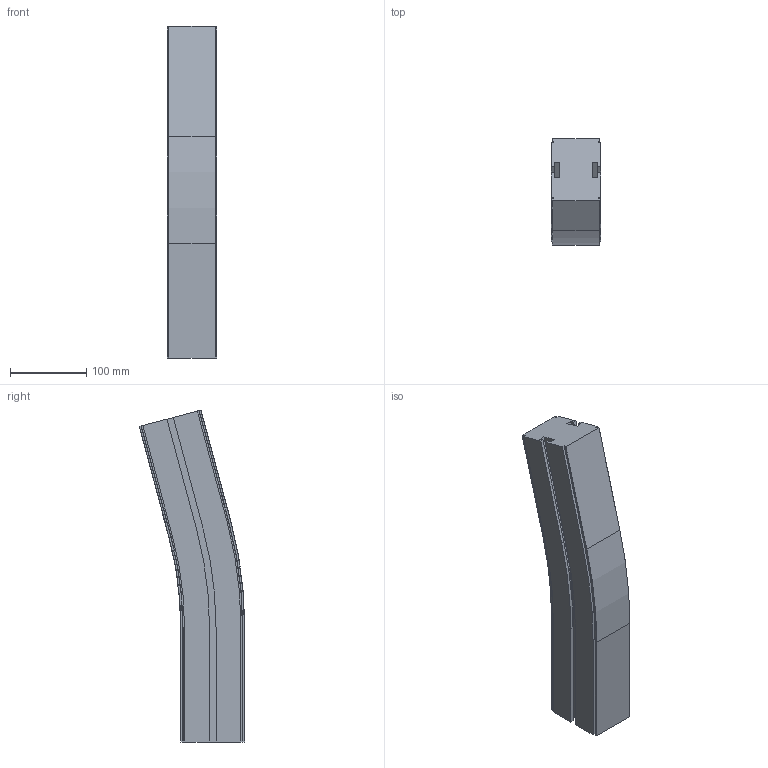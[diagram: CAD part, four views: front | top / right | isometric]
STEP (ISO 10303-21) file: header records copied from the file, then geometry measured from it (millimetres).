
FILE_DESCRIPTION (( 'STEP AP214' ), '1' );
FILE_NAME ('CS SL Verticaalbocht.65 15°.STEP', '2017-02-08T07:37:18', ( '' ), ( '' ), 'SwSTEP 2.0', 'SolidWorks 2016', '' );
FILE_SCHEMA (( 'AUTOMOTIVE_DESIGN' ));
Length unit declared in the file: millimetre
Products named in the file (1): CS SL Verticaalbocht.65 15°
Bounding box: 65 x 138.43 x 435.17 mm (x, y, z)
Volume: 2178038.5 mm3; surface area: 184175.4 mm2
Topology: 1 solids, 1 shells, 98 faces, 272 edges, 176 vertices
Faces by surface type: plane 72, cylinder 18, cone 8
Entity records: 3126 total; most frequent: CARTESIAN_POINT 547, ORIENTED_EDGE 544, DIRECTION 514, EDGE_CURVE 272, VECTOR 228, LINE 228, VERTEX_POINT 176, AXIS2_PLACEMENT_3D 143
